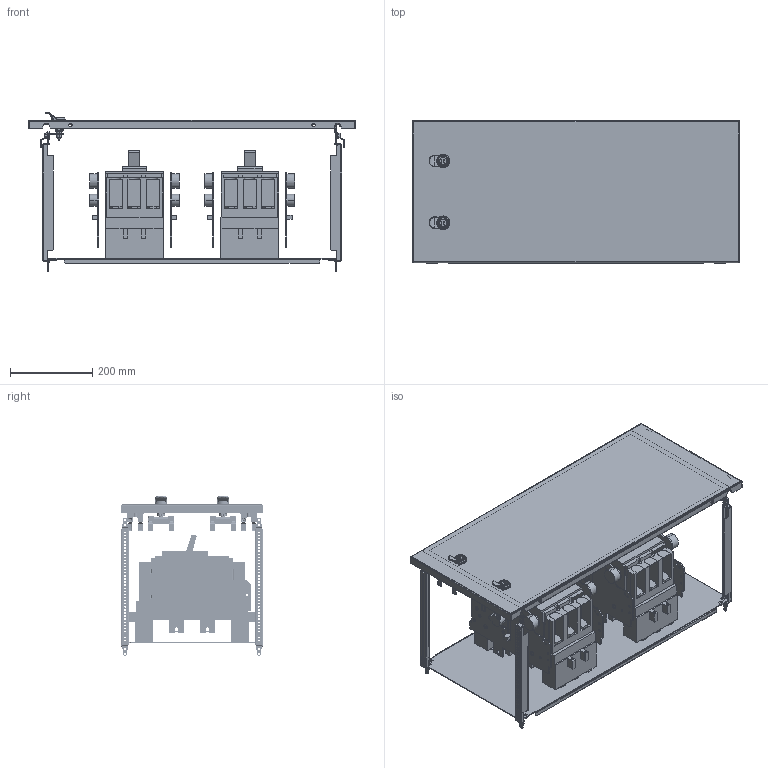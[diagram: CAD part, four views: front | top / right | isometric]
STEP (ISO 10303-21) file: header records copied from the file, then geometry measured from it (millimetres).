
FILE_DESCRIPTION(('CAx-IF Rec.Pracs.---Model Styling and Organization---1.2---2011-12-15','CAx-IF Rec.Pracs.---Geometric and Assembly Validation Properties---4.1---2014-06-16','CAx-IF Rec.Pracs.---PMI Polyline Presentation---2.0---2013-05-24'),'2;1');
FILE_NAME('R5PKEB7V81516.stp','2021-07-29T02:47:13+03:00',(''),(''),'STEP Interface 4.4 by CT CoreTechnologie','3D_Evolution4.4 by CT CoreTechnologie','');
FILE_SCHEMA(('AUTOMOTIVE_DESIGN { 1 0 10303 214 1 1 1 1 }'));
Length unit declared in the file: millimetre
Products named in the file (1): R5PKEB7V81516
Bounding box: 794 x 345 x 386.89 mm (x, y, z)
Surface area: 2637520.1 mm2 (no closed solid volume)
Topology: 0 solids, 119 shells, 4440 faces, 12257 edges, 8043 vertices
Faces by surface type: plane 1978, cylinder 1577, bspline 885
Entity records: 158399 total; most frequent: CARTESIAN_POINT 44352, ORIENTED_EDGE 24346, DIRECTION 23259, EDGE_CURVE 12191, VERTEX_POINT 8047, AXIS2_PLACEMENT_3D 7948, VECTOR 7363, LINE 7363
